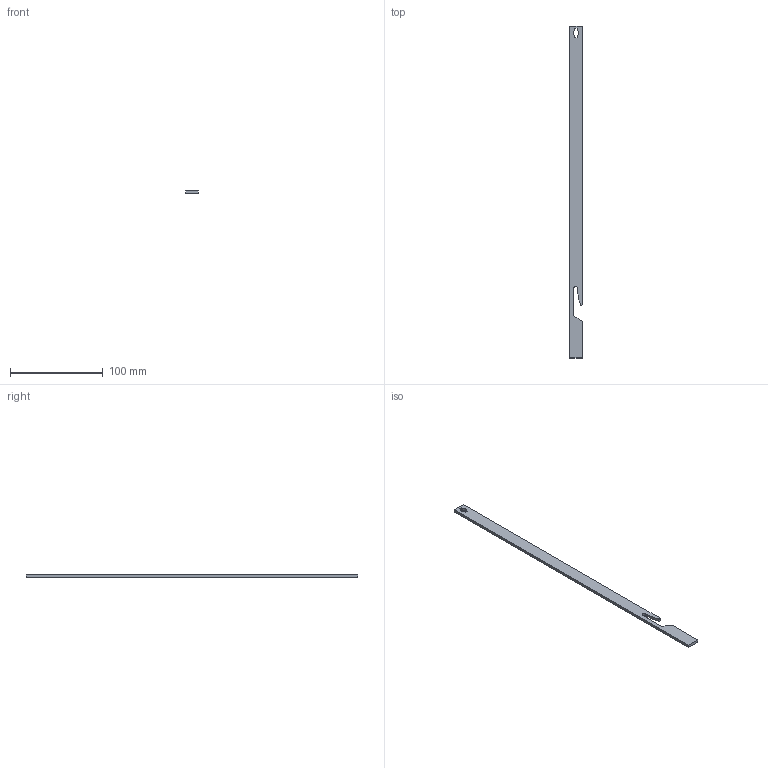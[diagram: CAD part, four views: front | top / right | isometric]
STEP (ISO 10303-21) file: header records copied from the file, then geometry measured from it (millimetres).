
FILE_DESCRIPTION (( 'STEP AP214' ), '1' );
FILE_NAME ('PP38-351.STEP', '2016-09-08T08:23:14', ( '' ), ( '' ), 'SwSTEP 2.0', 'SolidWorks 2015', '' );
FILE_SCHEMA (( 'AUTOMOTIVE_DESIGN' ));
Length unit declared in the file: millimetre
Products named in the file (1): PP38-351
Bounding box: 14 x 358.5 x 3 mm (x, y, z)
Volume: 14202.7 mm3; surface area: 11937.9 mm2
Topology: 1 solids, 1 shells, 22 faces, 60 edges, 40 vertices
Faces by surface type: plane 15, cylinder 7
Entity records: 736 total; most frequent: CARTESIAN_POINT 123, DIRECTION 120, ORIENTED_EDGE 120, EDGE_CURVE 60, LINE 46, VECTOR 46, VERTEX_POINT 40, AXIS2_PLACEMENT_3D 37
